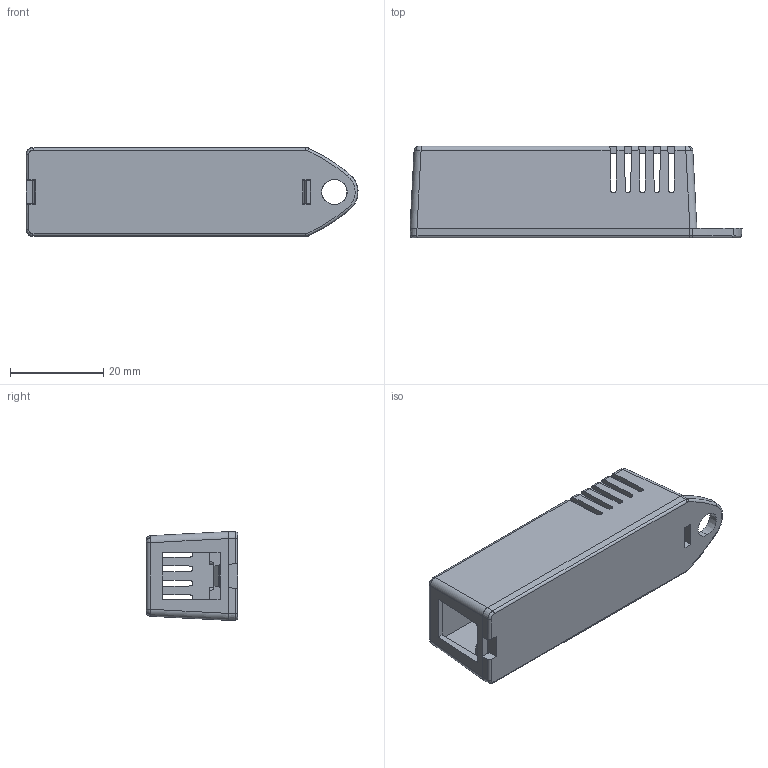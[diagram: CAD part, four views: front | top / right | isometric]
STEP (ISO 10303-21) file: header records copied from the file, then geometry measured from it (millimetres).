
FILE_DESCRIPTION (( 'STEP AP203' ), '1' );
FILE_NAME ('DM-021-A.STEP', '2019-12-16T07:16:13', ( '' ), ( '' ), 'SwSTEP 2.0', 'SolidWorks 2020', '' );
FILE_SCHEMA (( 'CONFIG_CONTROL_DESIGN' ));
Length unit declared in the file: millimetre
Products named in the file (1): DM-021-A
Bounding box: 71.06 x 19.6 x 19 mm (x, y, z)
Volume: 6934 mm3; surface area: 10987.4 mm2
Topology: 2 solids, 2 shells, 204 faces, 659 edges, 430 vertices
Faces by surface type: plane 120, cylinder 50, bspline 16, cone 12, torus 6
Entity records: 7687 total; most frequent: CARTESIAN_POINT 2103, ORIENTED_EDGE 1318, DIRECTION 976, EDGE_CURVE 659, LINE 486, VECTOR 486, VERTEX_POINT 430, AXIS2_PLACEMENT_3D 245
